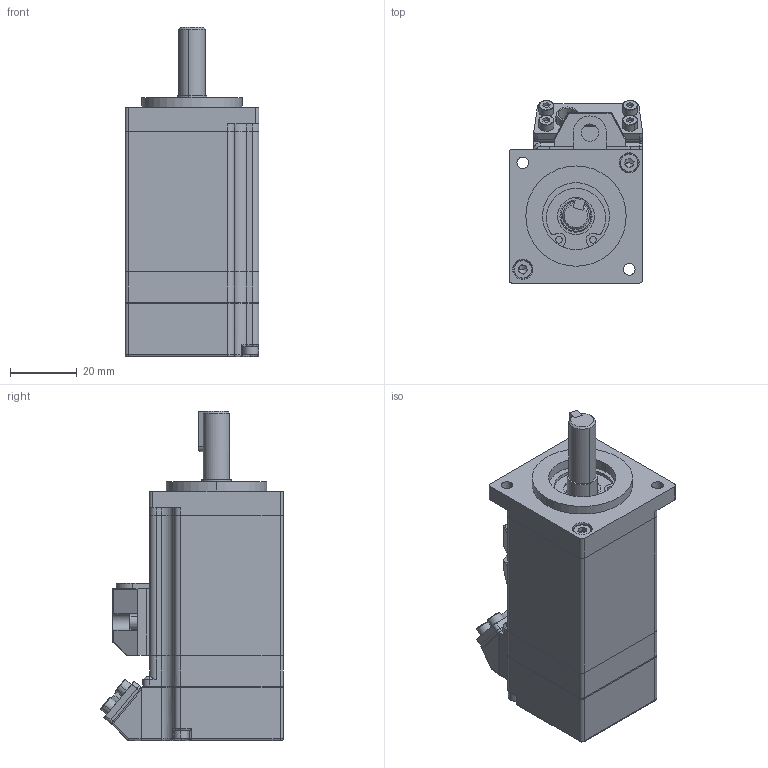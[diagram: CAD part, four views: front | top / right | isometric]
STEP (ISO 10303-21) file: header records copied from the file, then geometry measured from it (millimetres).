
FILE_DESCRIPTION (( 'STEP AP203' ), '1' );
FILE_NAME ('9.6939 SMC40S-0005-30MAK-5LSU.STEP', '2018-11-13T03:22:58', ( '' ), ( '' ), 'SwSTEP 2.0', 'SolidWorks 2008', '' );
FILE_SCHEMA (( 'CONFIG_CONTROL_DESIGN' ));
Length unit declared in the file: millimetre
Products named in the file (1): 9.6939 SMC40S-0005-30MAK-5LSU
Bounding box: 40 x 54.65 x 98.4 mm (x, y, z)
Surface area: 21873.4 mm2 (no closed solid volume)
Topology: 0 solids, 26 shells, 418 faces, 1292 edges, 848 vertices
Faces by surface type: plane 196, cylinder 154, bspline 45, cone 23
Entity records: 15469 total; most frequent: CARTESIAN_POINT 4298, DIRECTION 2357, ORIENTED_EDGE 2079, EDGE_CURVE 1265, VERTEX_POINT 848, AXIS2_PLACEMENT_3D 830, VECTOR 697, LINE 697
